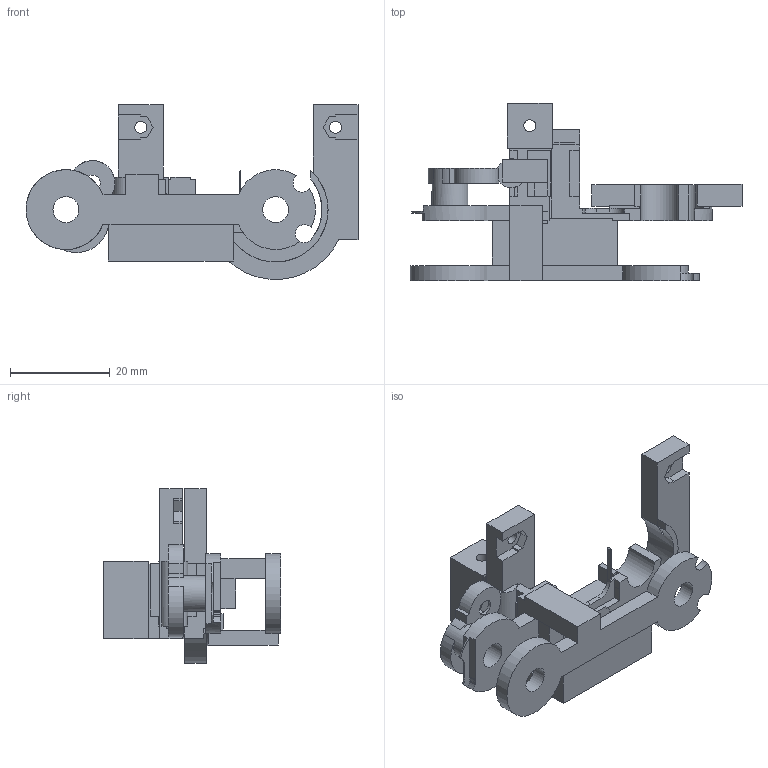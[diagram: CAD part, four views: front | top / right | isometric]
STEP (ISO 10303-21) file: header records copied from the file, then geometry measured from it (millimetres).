
FILE_DESCRIPTION(('Open CASCADE Model'),'2;1');
FILE_NAME('P02-P02_proximal.step', '', ('Noah Wilson'), (''), '', '', '');
FILE_SCHEMA(('AUTOMOTIVE_DESIGN { 1 0 10303 214 1 1 1 1 }'));
Length unit declared in the file: millimetre
Products named in the file (1): COMPOUND
Bounding box: 66.5 x 35.5 x 34.96 mm (x, y, z)
Volume: 10138.3 mm3; surface area: 8613.4 mm2
Topology: 1 solids, 1 shells, 258 faces, 757 edges, 503 vertices
Faces by surface type: plane 193, cylinder 64, cone 1
Full cylindrical faces by diameter (mm): 2.4 x3, 3.2 x1, 3.4 x2, 5.2 x3, 5.6 x1, 7.2 x1
Entity records: 18692 total; most frequent: CARTESIAN_POINT 4223, DIRECTION 2533, LINE 1642, VECTOR 1642, ORIENTED_EDGE 1514, PCURVE 1514, DEFINITIONAL_REPRESENTATION 1514, EDGE_CURVE 757
